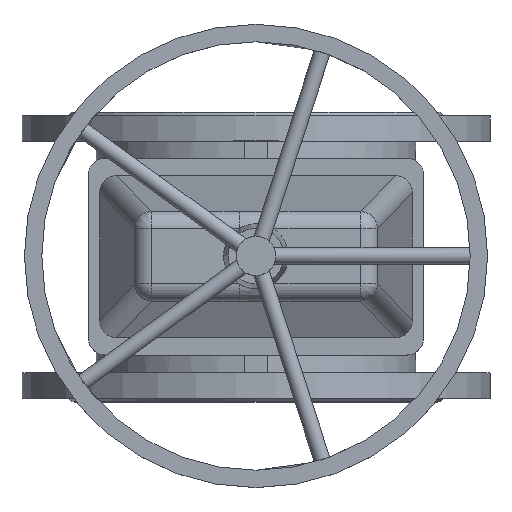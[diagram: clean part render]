
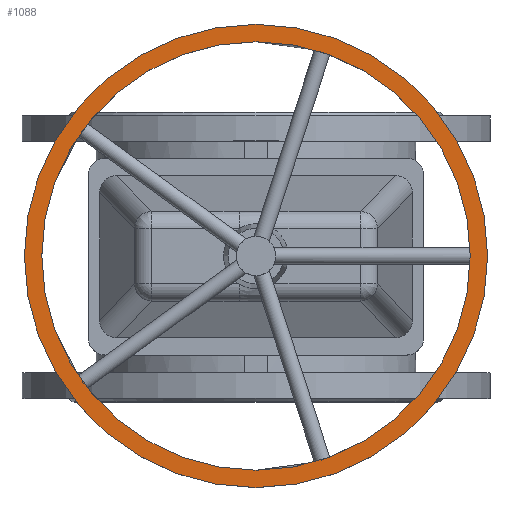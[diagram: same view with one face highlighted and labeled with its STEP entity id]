
A CAD part, top view. The second image highlights one B-rep face of the part: STEP entity #1088.
In plain terms, the highlighted planar face has unit normal (0, 0, 1).
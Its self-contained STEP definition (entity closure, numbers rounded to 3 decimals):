
#1088=ADVANCED_FACE('',(#2538,#2540),#2542,.T.);
#2538=FACE_BOUND('',#2539,.T.);
#2539=EDGE_LOOP('',(#3079));
#2540=FACE_BOUND('',#2541,.T.);
#2541=EDGE_LOOP('',(#3080));
#2542=PLANE('',#2543);
#2543=AXIS2_PLACEMENT_3D('',#2544,#2545,#2546);
#2544=CARTESIAN_POINT('',(0.,0.,606.5));
#2545=DIRECTION('',(0.,0.,1.));
#2546=DIRECTION('',(0.,-1.,0.));
#3079=ORIENTED_EDGE('',*,*,#3343,.T.);
#3080=ORIENTED_EDGE('',*,*,#3341,.T.);
#3341=EDGE_CURVE('',#3789,#3789,#3790,.F.);
#3343=EDGE_CURVE('',#3793,#3793,#3794,.T.);
#3789=VERTEX_POINT('',#5824);
#3790=CIRCLE('',#5825,185.);
#3793=VERTEX_POINT('',#5834);
#3794=CIRCLE('',#5835,200.);
#5824=CARTESIAN_POINT('',(0.,-185.,606.5));
#5825=AXIS2_PLACEMENT_3D('',#5826,#5827,#5828);
#5826=CARTESIAN_POINT('',(0.,0.,606.5));
#5827=DIRECTION('',(0.,0.,1.));
#5828=DIRECTION('',(0.,-1.,0.));
#5834=CARTESIAN_POINT('',(0.,-200.,606.5));
#5835=AXIS2_PLACEMENT_3D('',#5836,#5837,#5838);
#5836=CARTESIAN_POINT('',(0.,0.,606.5));
#5837=DIRECTION('',(0.,0.,1.));
#5838=DIRECTION('',(0.,-1.,0.));
